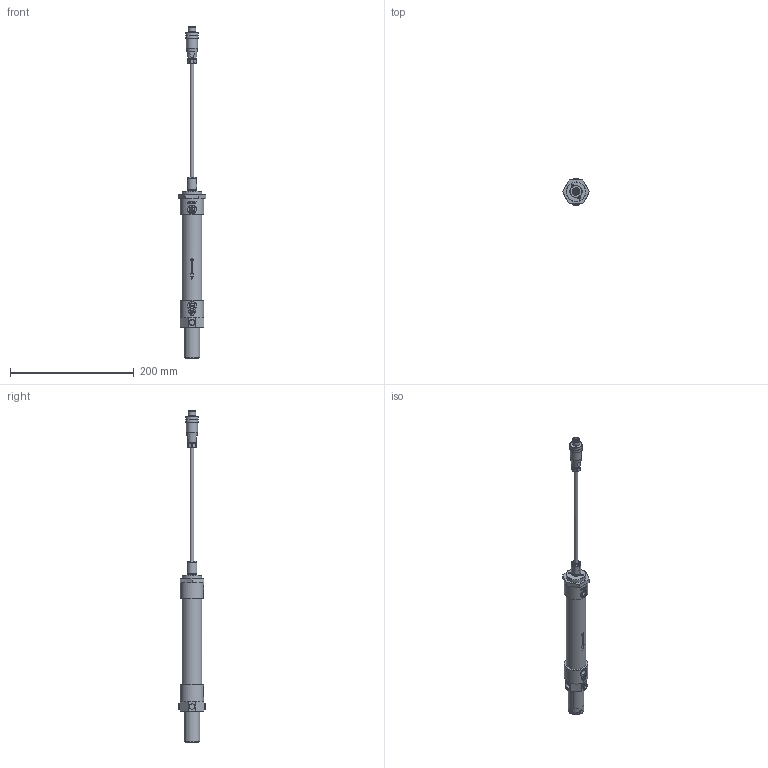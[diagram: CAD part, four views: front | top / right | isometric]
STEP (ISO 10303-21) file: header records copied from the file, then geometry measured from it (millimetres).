
FILE_DESCRIPTION(/* description */ ('ASSY,LVDT,22MM,CLAMP MOUNT,140MM,S2,NHP'),/* implementation_level */ '2;1');
FILE_NAME(/* name */ 'C:\temp\STP\ASSY,LVDT,22MM,CLAMP MOUNT,140MM,S2,NHP.stp',/* time_stamp */ '2016-03-30T11:38:04-04:00',/* author */ ('Simon.Britton'),/* organization */ (''),/* preprocessor_version */ 'ST-DEVELOPER v15.2',/* originating_system */ 'Autodesk Inventor 2014',/* authorisation */ '');
FILE_SCHEMA (('AUTOMOTIVE_DESIGN { 1 0 10303 214 3 1 1 }'));
Products named in the file (1): ASSY,LVDT,22MM,CLAMP MOUNT,140MM,S2,NHP
Bounding box: 43.99 x 42.1 x 536.55 mm (x, y, z)
Volume: 162042.5 mm3; surface area: 98284.1 mm2
Topology: 3 solids, 19 shells, 1303 faces, 3288 edges, 2156 vertices
Faces by surface type: plane 559, bspline 356, cylinder 263, cone 94, torus 26, sphere 5
Full cylindrical faces by diameter (mm): 0.217 x1, 1 x5, 1.5 x1, 1.567 x2, 1.587 x3, 2.381 x10, 2.79 x3, 3 x3, 3.15 x2, 3.175 x1, 3.242 x1, 3.81 x1, 4 x3, 4.763 x2, 5.7 x1, 6 x2, 6.35 x1, 7 x1, 8 x1, 8.3 x1, 8.566 x1, 8.731 x4, 9.459 x2, 9.525 x2, 10 x2, 10.2 x1, 10.5 x1, 11.113 x2, 12 x2, 12.01 x1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
Entity records: 116865 total; most frequent: CARTESIAN_POINT 88272, ORIENTED_EDGE 5918, DIRECTION 4464, EDGE_CURVE 2949, VERTEX_POINT 2034, EDGE_LOOP 1711, AXIS2_PLACEMENT_3D 1650, STYLED_ITEM 1305
